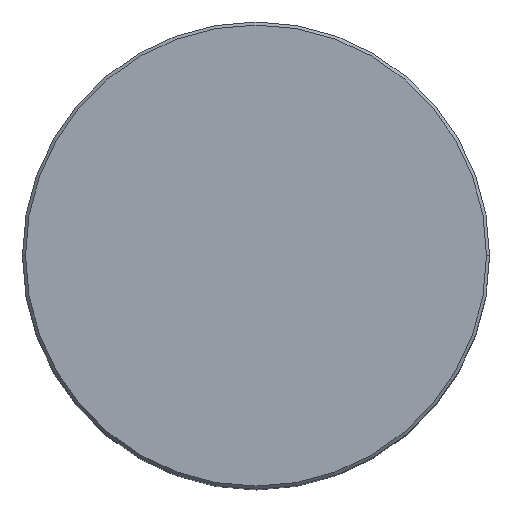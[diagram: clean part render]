
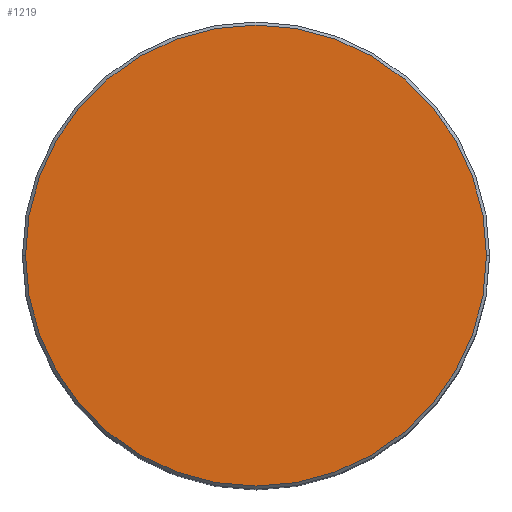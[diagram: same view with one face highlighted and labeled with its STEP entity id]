
A CAD part, top view. The second image highlights one B-rep face of the part: STEP entity #1219.
In plain terms, the highlighted planar face has unit normal (0, 0, 1).
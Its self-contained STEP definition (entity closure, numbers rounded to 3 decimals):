
#26 = VERTEX_POINT ( 'NONE', #954 ) ;
#36 = VERTEX_POINT ( 'NONE', #1077 ) ;
#145 = CARTESIAN_POINT ( 'NONE',  ( 0., 0., -610. ) ) ;
#149 = AXIS2_PLACEMENT_3D ( 'NONE', #1718, #1728, #256 ) ;
#172 = CARTESIAN_POINT ( 'NONE',  ( 0., 0., -610. ) ) ;
#256 = DIRECTION ( 'NONE',  ( -1., 0., 0. ) ) ;
#297 = CIRCLE ( 'NONE', #699, 22.7 ) ;
#299 = DIRECTION ( 'NONE',  ( 0., 0., 1. ) ) ;
#310 = DIRECTION ( 'NONE',  ( -1., 0., 0. ) ) ;
#699 = AXIS2_PLACEMENT_3D ( 'NONE', #145, #1097, #1486 ) ;
#800 = ORIENTED_EDGE ( 'NONE', *, *, #1358, .T. ) ;
#948 = ORIENTED_EDGE ( 'NONE', *, *, #1377, .T. ) ;
#954 = CARTESIAN_POINT ( 'NONE',  ( 22.7, 0., -610. ) ) ;
#1060 = AXIS2_PLACEMENT_3D ( 'NONE', #172, #299, #310 ) ;
#1077 = CARTESIAN_POINT ( 'NONE',  ( -22.7, 0., -610. ) ) ;
#1097 = DIRECTION ( 'NONE',  ( 0., 0., 1. ) ) ;
#1188 = CIRCLE ( 'NONE', #1060, 22.7 ) ;
#1219 = ADVANCED_FACE ( 'NONE', ( #1702 ), #1466, .F. ) ;
#1358 = EDGE_CURVE ( 'NONE', #36, #26, #297, .T. ) ;
#1377 = EDGE_CURVE ( 'NONE', #26, #36, #1188, .T. ) ;
#1466 = PLANE ( 'NONE',  #149 ) ;
#1486 = DIRECTION ( 'NONE',  ( -1., 0., 0. ) ) ;
#1702 = FACE_OUTER_BOUND ( 'NONE', #1714, .T. ) ;
#1714 = EDGE_LOOP ( 'NONE', ( #800, #948 ) ) ;
#1718 = CARTESIAN_POINT ( 'NONE',  ( 0., 21.75, -610. ) ) ;
#1728 = DIRECTION ( 'NONE',  ( 0., 0., -1. ) ) ;
